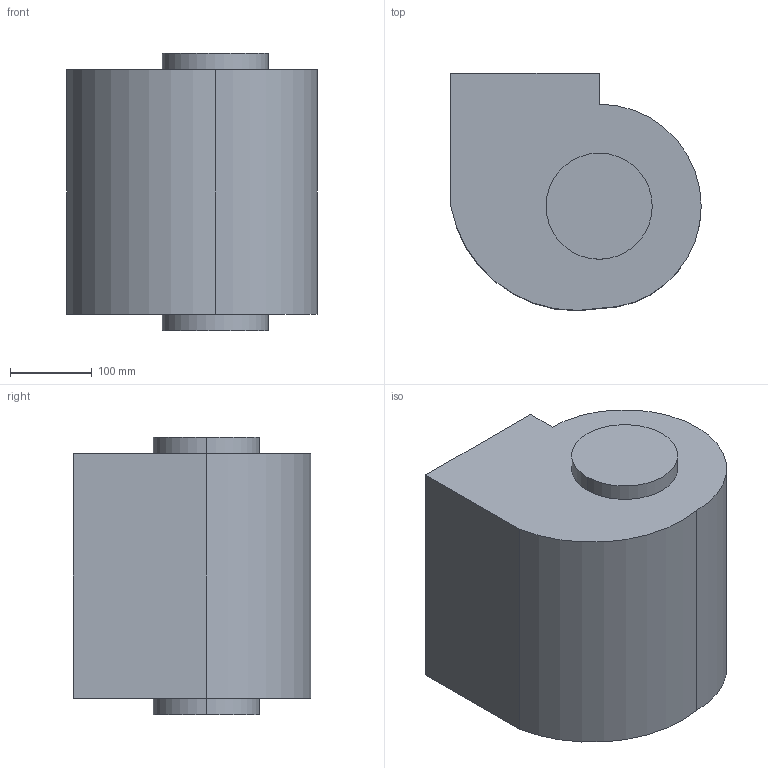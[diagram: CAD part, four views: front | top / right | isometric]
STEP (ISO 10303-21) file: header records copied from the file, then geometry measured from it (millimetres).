
FILE_DESCRIPTION (( 'STEP AP214' ), '1' );
FILE_NAME ('centrifugal fan1.STEP', '2018-04-15T21:10:50', ( 'farid' ), ( 'Microsoft' ), 'SwSTEP 2.0', 'SolidWorks 2018', '' );
FILE_SCHEMA (( 'AUTOMOTIVE_DESIGN' ));
Length unit declared in the file: millimetre
Products named in the file (1): centrifugal fan1
Bounding box: 306.74 x 290.52 x 340 mm (x, y, z)
Volume: 25631768.3 mm3; surface area: 715515.8 mm2
Topology: 3 solids, 3 shells, 111 faces, 315 edges, 198 vertices
Faces by surface type: plane 85, cylinder 26
Entity records: 3677 total; most frequent: DIRECTION 635, ORIENTED_EDGE 630, CARTESIAN_POINT 625, EDGE_CURVE 315, VECTOR 219, LINE 219, AXIS2_PLACEMENT_3D 208, VERTEX_POINT 198
